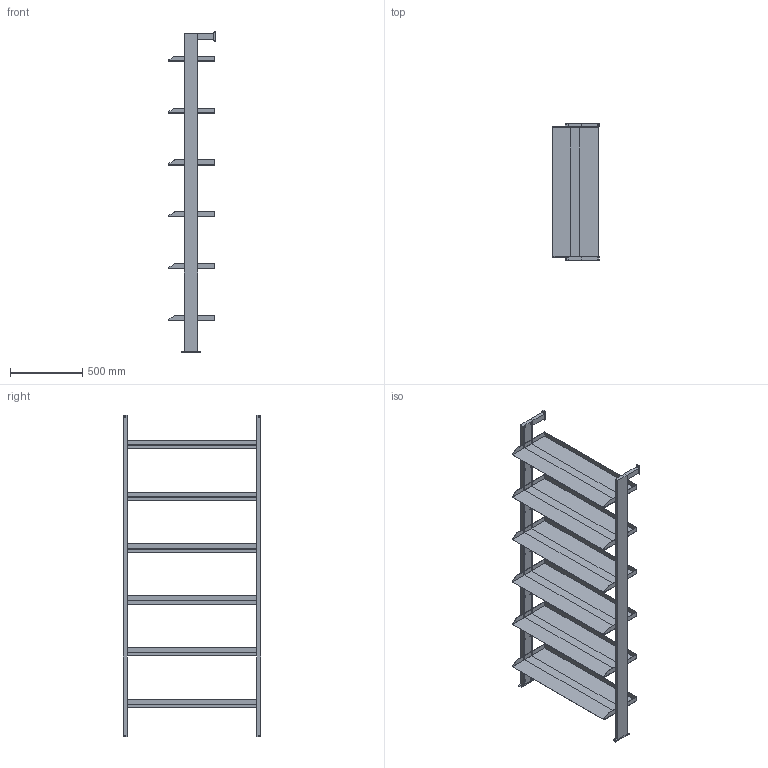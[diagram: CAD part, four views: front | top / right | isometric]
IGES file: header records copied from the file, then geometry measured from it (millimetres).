
Start section: Comment
Global section: file name: Regal - 2200 x 0900 - Wand.igs; native system:  By UGS Corp.; preprocessor: XPlus GENERIC/IGES 3.0; author: Author; organization: Title; date: 20170123.125009; units: inch
Bounding box: 325.1 x 950 x 2226 mm (x, y, z)
Surface area: 5462887.1 mm2 (no closed solid volume)
Topology: 0 solids, 0 shells, 366 faces, 1680 edges, 1680 vertices
Faces by surface type: bspline 366
